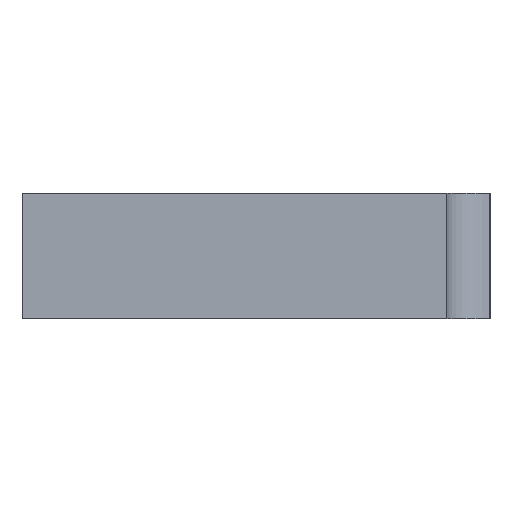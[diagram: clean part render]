
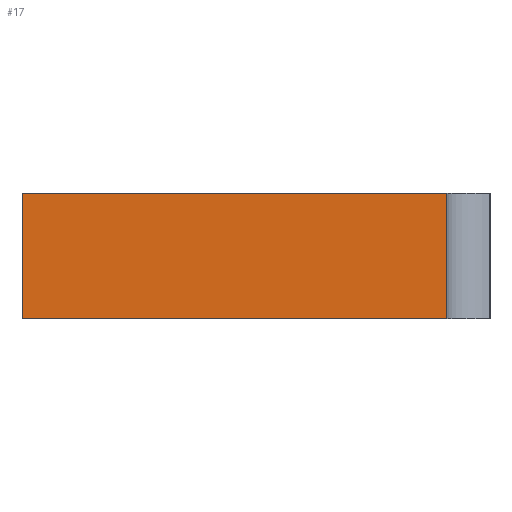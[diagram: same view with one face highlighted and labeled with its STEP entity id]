
A CAD part, left-side view. The second image highlights one B-rep face of the part: STEP entity #17.
In plain terms, the highlighted planar face has unit normal (-1, 0, 0).
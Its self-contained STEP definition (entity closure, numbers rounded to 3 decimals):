
#17 = ADVANCED_FACE('',(#18),#32,.F.);
#18 = FACE_BOUND('',#19,.F.);
#19 = EDGE_LOOP('',(#20,#55,#81,#109));
#20 = ORIENTED_EDGE('',*,*,#21,.F.);
#21 = EDGE_CURVE('',#22,#24,#26,.T.);
#22 = VERTEX_POINT('',#23);
#23 = CARTESIAN_POINT('',(0.,-3.25,2.15));
#24 = VERTEX_POINT('',#25);
#25 = CARTESIAN_POINT('',(0.,4.,2.15));
#26 = SURFACE_CURVE('',#27,(#31,#43),.PCURVE_S1.);
#27 = LINE('',#28,#29);
#28 = CARTESIAN_POINT('',(0.,-4.,2.15));
#29 = VECTOR('',#30,1.);
#30 = DIRECTION('',(0.,1.,0.));
#31 = PCURVE('',#32,#37);
#32 = PLANE('',#33);
#33 = AXIS2_PLACEMENT_3D('',#34,#35,#36);
#34 = CARTESIAN_POINT('',(0.,-4.,0.));
#35 = DIRECTION('',(1.,0.,0.));
#36 = DIRECTION('',(0.,0.,1.));
#37 = DEFINITIONAL_REPRESENTATION('',(#38),#42);
#38 = LINE('',#39,#40);
#39 = CARTESIAN_POINT('',(2.15,0.));
#40 = VECTOR('',#41,1.);
#41 = DIRECTION('',(0.,-1.));
#42 = ( GEOMETRIC_REPRESENTATION_CONTEXT(2) 
PARAMETRIC_REPRESENTATION_CONTEXT() REPRESENTATION_CONTEXT('2D SPACE',''
  ) );
#43 = PCURVE('',#44,#49);
#44 = PLANE('',#45);
#45 = AXIS2_PLACEMENT_3D('',#46,#47,#48);
#46 = CARTESIAN_POINT('',(0.,-4.,2.15));
#47 = DIRECTION('',(0.,0.,1.));
#48 = DIRECTION('',(1.,0.,0.));
#49 = DEFINITIONAL_REPRESENTATION('',(#50),#54);
#50 = LINE('',#51,#52);
#51 = CARTESIAN_POINT('',(0.,0.));
#52 = VECTOR('',#53,1.);
#53 = DIRECTION('',(0.,1.));
#54 = ( GEOMETRIC_REPRESENTATION_CONTEXT(2) 
PARAMETRIC_REPRESENTATION_CONTEXT() REPRESENTATION_CONTEXT('2D SPACE',''
  ) );
#55 = ORIENTED_EDGE('',*,*,#56,.T.);
#56 = EDGE_CURVE('',#22,#57,#59,.T.);
#57 = VERTEX_POINT('',#58);
#58 = CARTESIAN_POINT('',(0.,-3.25,0.));
#59 = SURFACE_CURVE('',#60,(#64,#70),.PCURVE_S1.);
#60 = LINE('',#61,#62);
#61 = CARTESIAN_POINT('',(0.,-3.25,-0.01));
#62 = VECTOR('',#63,1.);
#63 = DIRECTION('',(-0.,-0.,-1.));
#64 = PCURVE('',#32,#65);
#65 = DEFINITIONAL_REPRESENTATION('',(#66),#69);
#66 = B_SPLINE_CURVE_WITH_KNOTS('',1,(#67,#68),.UNSPECIFIED.,.F.,.F.,(2,
    2),(-2.17,0.),.PIECEWISE_BEZIER_KNOTS.);
#67 = CARTESIAN_POINT('',(2.16,-0.75));
#68 = CARTESIAN_POINT('',(-0.01,-0.75));
#69 = ( GEOMETRIC_REPRESENTATION_CONTEXT(2) 
PARAMETRIC_REPRESENTATION_CONTEXT() REPRESENTATION_CONTEXT('2D SPACE',''
  ) );
#70 = PCURVE('',#71,#76);
#71 = CYLINDRICAL_SURFACE('',#72,0.75);
#72 = AXIS2_PLACEMENT_3D('',#73,#74,#75);
#73 = CARTESIAN_POINT('',(0.,-4.,-0.01));
#74 = DIRECTION('',(-0.,-0.,-1.));
#75 = DIRECTION('',(1.,0.,0.));
#76 = DEFINITIONAL_REPRESENTATION('',(#77),#80);
#77 = B_SPLINE_CURVE_WITH_KNOTS('',1,(#78,#79),.UNSPECIFIED.,.F.,.F.,(2,
    2),(-2.17,0.),.PIECEWISE_BEZIER_KNOTS.);
#78 = CARTESIAN_POINT('',(-1.571,-2.17));
#79 = CARTESIAN_POINT('',(-1.571,0.));
#80 = ( GEOMETRIC_REPRESENTATION_CONTEXT(2) 
PARAMETRIC_REPRESENTATION_CONTEXT() REPRESENTATION_CONTEXT('2D SPACE',''
  ) );
#81 = ORIENTED_EDGE('',*,*,#82,.T.);
#82 = EDGE_CURVE('',#57,#83,#85,.T.);
#83 = VERTEX_POINT('',#84);
#84 = CARTESIAN_POINT('',(0.,4.,0.));
#85 = SURFACE_CURVE('',#86,(#90,#97),.PCURVE_S1.);
#86 = LINE('',#87,#88);
#87 = CARTESIAN_POINT('',(0.,-4.,0.));
#88 = VECTOR('',#89,1.);
#89 = DIRECTION('',(0.,1.,0.));
#90 = PCURVE('',#32,#91);
#91 = DEFINITIONAL_REPRESENTATION('',(#92),#96);
#92 = LINE('',#93,#94);
#93 = CARTESIAN_POINT('',(0.,0.));
#94 = VECTOR('',#95,1.);
#95 = DIRECTION('',(0.,-1.));
#96 = ( GEOMETRIC_REPRESENTATION_CONTEXT(2) 
PARAMETRIC_REPRESENTATION_CONTEXT() REPRESENTATION_CONTEXT('2D SPACE',''
  ) );
#97 = PCURVE('',#98,#103);
#98 = PLANE('',#99);
#99 = AXIS2_PLACEMENT_3D('',#100,#101,#102);
#100 = CARTESIAN_POINT('',(0.,-4.,0.));
#101 = DIRECTION('',(0.,0.,1.));
#102 = DIRECTION('',(1.,0.,0.));
#103 = DEFINITIONAL_REPRESENTATION('',(#104),#108);
#104 = LINE('',#105,#106);
#105 = CARTESIAN_POINT('',(0.,0.));
#106 = VECTOR('',#107,1.);
#107 = DIRECTION('',(0.,1.));
#108 = ( GEOMETRIC_REPRESENTATION_CONTEXT(2) 
PARAMETRIC_REPRESENTATION_CONTEXT() REPRESENTATION_CONTEXT('2D SPACE',''
  ) );
#109 = ORIENTED_EDGE('',*,*,#110,.T.);
#110 = EDGE_CURVE('',#83,#24,#111,.T.);
#111 = SURFACE_CURVE('',#112,(#116,#123),.PCURVE_S1.);
#112 = LINE('',#113,#114);
#113 = CARTESIAN_POINT('',(0.,4.,0.));
#114 = VECTOR('',#115,1.);
#115 = DIRECTION('',(0.,0.,1.));
#116 = PCURVE('',#32,#117);
#117 = DEFINITIONAL_REPRESENTATION('',(#118),#122);
#118 = LINE('',#119,#120);
#119 = CARTESIAN_POINT('',(0.,-8.));
#120 = VECTOR('',#121,1.);
#121 = DIRECTION('',(1.,0.));
#122 = ( GEOMETRIC_REPRESENTATION_CONTEXT(2) 
PARAMETRIC_REPRESENTATION_CONTEXT() REPRESENTATION_CONTEXT('2D SPACE',''
  ) );
#123 = PCURVE('',#124,#129);
#124 = PLANE('',#125);
#125 = AXIS2_PLACEMENT_3D('',#126,#127,#128);
#126 = CARTESIAN_POINT('',(0.,4.,0.));
#127 = DIRECTION('',(0.,1.,0.));
#128 = DIRECTION('',(0.,0.,1.));
#129 = DEFINITIONAL_REPRESENTATION('',(#130),#134);
#130 = LINE('',#131,#132);
#131 = CARTESIAN_POINT('',(0.,0.));
#132 = VECTOR('',#133,1.);
#133 = DIRECTION('',(1.,0.));
#134 = ( GEOMETRIC_REPRESENTATION_CONTEXT(2) 
PARAMETRIC_REPRESENTATION_CONTEXT() REPRESENTATION_CONTEXT('2D SPACE',''
  ) );
